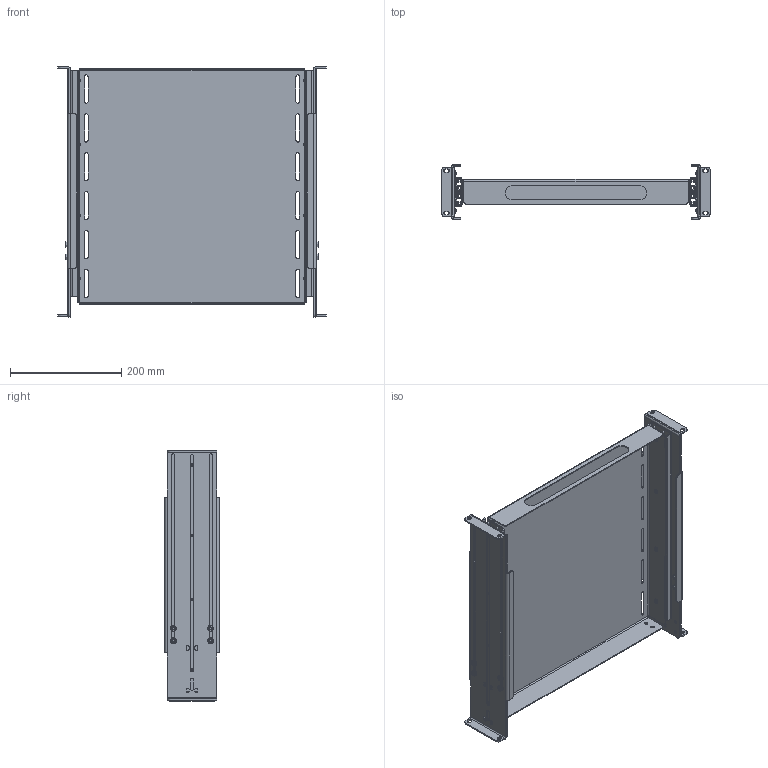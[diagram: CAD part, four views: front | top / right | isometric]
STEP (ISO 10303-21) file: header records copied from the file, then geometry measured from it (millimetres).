
FILE_DESCRIPTION (( 'STEP AP203' ), '1' );
FILE_NAME ('10013.STEP', '2015-07-09T19:47:07', ( '' ), ( '' ), 'SwSTEP 2.0', 'SolidWorks 2010', '' );
FILE_SCHEMA (( 'CONFIG_CONTROL_DESIGN' ));
Length unit declared in the file: inch
Products named in the file (8): 10013; 87560159; 87560148; 87560163; 30297001_retracted; 87746619_87746619 CR-PHMS 0.19-32x0.375x0.375-N; 99411354_99411354; 99416076_CR-PHMS 0.164-32x0.25x0.25-N
Assembly tree (39 placements, depth 2):
  10013
    99411354_99411354  x8
    87560163  x2
    99416076_CR-PHMS 0.164-32x0.25x0.25-N  x16
    87746619_87746619 CR-PHMS 0.19-32x0.375x0.375-N  x8
    87560159  x2
    87560148
    30297001_retracted  x2
Bounding box: 482.6 x 97.89 x 450.01 mm (x, y, z)
Volume: 1101434.3 mm3; surface area: 1117657.9 mm2
Topology: 43 solids, 43 shells, 3673 faces, 9393 edges, 5870 vertices
Faces by surface type: cone 1424, cylinder 1141, plane 764, bspline 216, torus 80, sphere 48
Entity records: 26387 total; most frequent: CARTESIAN_POINT 6108, DIRECTION 4078, ORIENTED_EDGE 3786, EDGE_CURVE 1893, AXIS2_PLACEMENT_3D 1597, VERTEX_POINT 1198, VECTOR 884, LINE 884
